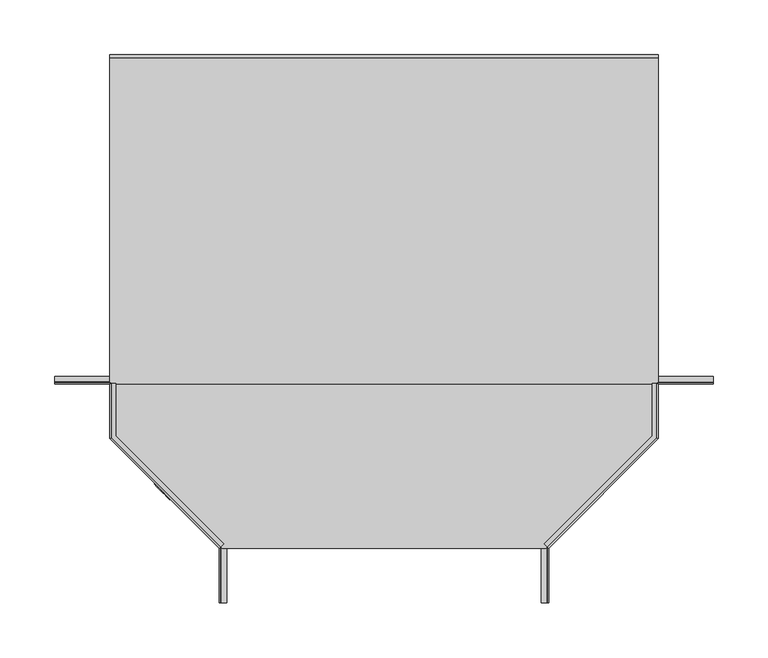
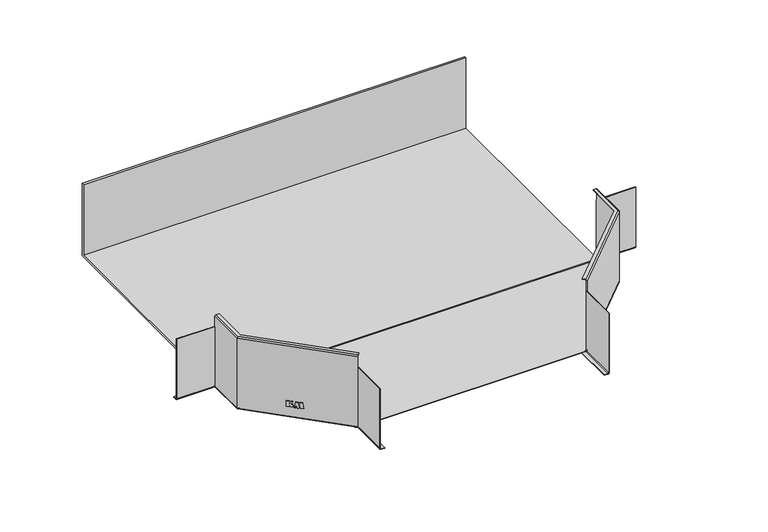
"""IFC4 building model written with IfcOpenShell, lengths in millimetres: cable carrier fitting geometry, КМ Профиль Т-образный ответвитель : Т-образный ответвитель TU."""

from ifc_helpers import new_model, si_unit, frame, origin, place, context, project, spatial, polyline, circle_curve, ellipse_curve, outline, extrude, source, transform, mapped, element, save
from ifc_brep_helpers import plane_surface, cylinder_surface, revolved_surface, advanced_brep


def cable_carrier_fitting_0a35e445(model_context):
    return source(origin(), model_context, "Body", "SolidModel", [
        extrude(outline(polyline([(-7.7728441, 0.0), (-0.0215801, 0.0), (-0.0215801, -3.5758269), (-3.1869209, -3.5758269), (-0.0215801, -5.2800314), (-0.0215801, -9.1784428), (-3.5649671, -7.3111337), (-4.2503392, -5.0693826), (-7.7728441, -7.5358671), (-7.7728441, -5.4099024), (-4.1944921, -3.5072589), (-7.7728441, -3.5072589), (-7.7728441, 0.0)])), frame((-209.5985588, -241.5328121, -34.7590011), z_axis=(0.707106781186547, 0.707106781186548, 0.0), x_axis=(0.0, 0.0, -1.0)), (0.0, 0.0, 1.0), 0.8),
        extrude(outline(polyline([(-0.0215801, -11.2426021), (-4.6893876, -11.6262769), (-0.015533, -13.0342957), (-0.015533, -14.5088063), (-4.7048092, -15.9888749), (-0.0160096, -16.4663676), (-0.0160096, -20.3688082), (-7.7966329, -19.1773107), (-7.7966329, -15.9833558), (-4.7199779, -14.9620484), (-7.7942442, -14.1955477), (-7.7942442, -11.1648192), (-0.0215801, -9.3445386), (-0.0215801, -11.2426021)])), frame((-209.5985588, -241.5328121, -34.7590011), z_axis=(0.707106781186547, 0.707106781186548, 0.0), x_axis=(0.0, 0.0, -1.0)), (0.0, 0.0, 1.0), 0.8),
        advanced_brep(
        [(300.0, -150.0, -48.2), (300.0, -148.2, -50.0), (300.0, -143.5, -50.0), (300.0, -143.5, -49.2), (300.0, -148.2, -49.2), (300.0, -149.2, -48.2), (300.0, -149.2, 34.0), (300.0, -150.0, 34.0), (248.2, -150.0, 49.2), (248.2, -199.2544156, 49.2), (148.7272078, -298.7272078, 49.2), (146.1109127, -296.1109127, 49.2), (244.5, -197.7218254, 49.2), (244.5, -150.0, 49.2), (244.5, -150.0, 50.0), (244.5, -197.7218254, 50.0), (146.1109127, -296.1109127, 50.0), (148.7272078, -298.7272078, 50.0), (248.2, -199.2544156, 50.0), (248.2, -150.0, 50.0), (250.0, -150.0, -48.2), (250.0, -150.0, 34.0), (248.2, -148.2, -50.0), (248.2, -199.2544156, -50.0), (148.2, -299.2544156, -50.0), (148.2, -350.0, -50.0), (143.5, -350.0, -50.0), (143.5, -297.3076118, -50.0), (243.5, -197.3076118, -50.0), (243.5, -143.5, -50.0), (243.5, -143.5, -49.2), (243.5, -197.3076118, -49.2), (143.5, -297.3076118, -49.2), (143.5, -350.0, -49.2), (148.2, -350.0, -49.2), (148.2, -299.2544156, -49.2), (248.2, -199.2544156, -49.2), (248.2, -148.2, -49.2), (249.2, -149.2, -48.2), (249.2, -149.2, 34.0), (249.2, -199.6686292, 48.2), (249.2, -150.0, 48.2), (250.0, -200.0, 48.2), (250.0, -150.0, 48.2), (250.0, -200.0, -48.2), (249.2, -199.6686292, -48.2), (249.2, -150.0, 34.0), (149.4343146, -299.4343146, 48.2), (150.0, -300.0, 48.2), (150.0, -300.0, 34.0), (150.0, -300.0, -48.2), (149.2, -299.6686292, -48.2), (149.2, -299.6686292, 34.0), (149.4343146, -299.4343146, 34.0), (150.0, -350.0, -48.2), (150.0, -350.0, 34.0), (149.2, -350.0, 34.0), (149.2, -350.0, -48.2)],
        [
            (0, 1, circle_curve(frame((300.0, -148.2, -48.2), z_axis=(1.0, 0.0, 0.0), x_axis=(0.0, -1.0, 0.0)), 1.8)),
            (1, 2),
            (2, 3),
            (3, 4),
            (4, 5, circle_curve(frame((300.0, -148.2, -48.2), z_axis=(-1.0, 0.0, 0.0), x_axis=(0.0, -1.0, 0.0)), 1.0)),
            (5, 6),
            (6, 7),
            (7, 0),
            (8, 9),
            (9, 10),
            (10, 11),
            (11, 12),
            (12, 13),
            (13, 8),
            (14, 15),
            (15, 16),
            (16, 17),
            (17, 18),
            (18, 19),
            (19, 14),
            (20, 0),
            (7, 21),
            (21, 20),
            (20, 22, ellipse_curve(frame((248.2, -148.2, -48.2), z_axis=(0.7071067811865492, 0.7071067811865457, 0.0), x_axis=(0.707106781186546, -0.7071067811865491, 0.0)), 2.5455844, 1.8)),
            (22, 1),
            (22, 23),
            (23, 24),
            (24, 25),
            (25, 26),
            (26, 27),
            (27, 28),
            (28, 29),
            (29, 2),
            (29, 30),
            (30, 3),
            (30, 31),
            (31, 32),
            (32, 33),
            (33, 34),
            (34, 35),
            (35, 36),
            (36, 37),
            (37, 4),
            (37, 38, ellipse_curve(frame((248.2, -148.2, -48.2), z_axis=(-0.7071067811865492, -0.7071067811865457, 0.0), x_axis=(-0.707106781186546, 0.7071067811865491, 0.0)), 1.4142136, 1.0)),
            (38, 5),
            (38, 39),
            (39, 6),
            (40, 9, ellipse_curve(frame((248.2, -199.2544156, 48.2), z_axis=(-0.38268343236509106, -0.9238795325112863, 0.0), x_axis=(0.9238795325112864, -0.3826834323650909, 0.0)), 1.0823922, 1.0)),
            (8, 41, circle_curve(frame((248.2, -150.0, 48.2), z_axis=(0.0, 1.0, 0.0), x_axis=(1.0, 0.0, 0.0)), 1.0)),
            (41, 40),
            (12, 15),
            (14, 13),
            (18, 42, ellipse_curve(frame((248.2, -199.2544156, 48.2), z_axis=(0.38268343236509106, 0.9238795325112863, 0.0), x_axis=(-0.9238795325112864, 0.3826834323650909, 0.0)), 1.948306, 1.8)),
            (42, 43),
            (43, 19, circle_curve(frame((248.2, -150.0, 48.2), z_axis=(0.0, -1.0, 0.0), x_axis=(1.0, 0.0, 0.0)), 1.8)),
            (42, 44),
            (44, 20),
            (21, 43),
            (44, 23, ellipse_curve(frame((248.2, -199.2544156, -48.2), z_axis=(0.38268343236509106, 0.9238795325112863, 0.0), x_axis=(-0.9238795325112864, 0.3826834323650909, 0.0)), 1.948306, 1.8)),
            (28, 31),
            (36, 45, ellipse_curve(frame((248.2, -199.2544156, -48.2), z_axis=(-0.38268343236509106, -0.9238795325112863, 0.0), x_axis=(0.9238795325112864, -0.3826834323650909, 0.0)), 1.0823922, 1.0)),
            (45, 38),
            (45, 40),
            (41, 46),
            (46, 39),
            (40, 47),
            (47, 10, circle_curve(frame((148.7272078, -298.7272078, 48.2), z_axis=(-0.7071067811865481, -0.7071067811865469, 0.0), x_axis=(0.7071067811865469, -0.7071067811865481, 0.0)), 1.0)),
            (11, 16),
            (17, 48, circle_curve(frame((148.7272078, -298.7272078, 48.2), z_axis=(0.7071067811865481, 0.7071067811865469, 0.0), x_axis=(0.7071067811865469, -0.7071067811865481, 0.0)), 1.8)),
            (48, 42),
            (48, 49),
            (49, 50),
            (50, 44),
            (50, 24, ellipse_curve(frame((148.2, -299.2544156, -48.2), z_axis=(0.382683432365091, 0.9238795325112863, 0.0), x_axis=(0.9238795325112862, -0.3826834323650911, 0.0)), 1.948306, 1.8)),
            (27, 32),
            (35, 51, ellipse_curve(frame((148.2, -299.2544156, -48.2), z_axis=(-0.382683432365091, -0.9238795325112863, 0.0), x_axis=(-0.9238795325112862, 0.3826834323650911, 0.0)), 1.0823922, 1.0)),
            (51, 45),
            (51, 52),
            (52, 53),
            (53, 47),
            (25, 54, circle_curve(frame((148.2, -350.0, -48.2), z_axis=(0.0, -1.0, 0.0), x_axis=(1.0, 0.0, 0.0)), 1.8)),
            (54, 55),
            (55, 56),
            (56, 57),
            (57, 34, circle_curve(frame((148.2, -350.0, -48.2), z_axis=(0.0, 1.0, 0.0), x_axis=(1.0, 0.0, 0.0)), 1.0)),
            (33, 26),
            (54, 50),
            (49, 55),
            (57, 51),
            (56, 52),
            (49, 53),
            (46, 21),
        ],
        [
            plane_surface(frame((300.0, -150.0, 0.0), z_axis=(1.0, 0.0, 0.0), x_axis=(0.0, 0.0, 1.0))),
            plane_surface(frame((300.0, -148.2, 49.2), z_axis=(0.0, 0.0, -1.0), x_axis=(-1.0, 0.0, 0.0))),
            plane_surface(frame((300.0, -144.5, 50.0), z_axis=(0.0, 0.0, 1.0), x_axis=(-1.0, 0.0, 0.0))),
            plane_surface(frame((300.0, -150.0, 48.2), z_axis=(0.0, -1.0, 0.0), x_axis=(-1.0, 0.0, 0.0))),
            cylinder_surface(frame((300.0, -148.2, -48.2), z_axis=(1.0, 0.0, 0.0), x_axis=(0.0, -1.0, 0.0)), 1.8),
            plane_surface(frame((300.0, -148.2, -50.0), z_axis=(0.0, 0.0, -1.0), x_axis=(-1.0, 0.0, 0.0))),
            plane_surface(frame((300.0, -143.5, -50.0), z_axis=(0.0, 1.0, 0.0), x_axis=(-1.0, 0.0, 0.0))),
            plane_surface(frame((300.0, -143.5, -49.2), z_axis=(0.0, 0.0, 1.0), x_axis=(-1.0, 0.0, 0.0))),
            revolved_surface(polyline([(247.19999997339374, -149.2, -48.2), (300.0, -149.2, -48.2)]), (300.0, -148.2, -48.2), (-1.0, 0.0, 0.0)),
            plane_surface(frame((300.0, -149.2, -48.2), z_axis=(0.0, 1.0, 0.0), x_axis=(-1.0, 0.0, 0.0))),
            revolved_surface(polyline([(249.2, -199.6686292, 48.2), (249.2, -150.0, 48.2)]), (248.2, -150.0, 48.2), (0.0, -1.0, 0.0)),
            plane_surface(frame((244.5, -144.5, 49.2), z_axis=(-1.0, 0.0, 0.0), x_axis=(0.0, -1.0, 0.0))),
            cylinder_surface(frame((248.2, -150.0, 48.2), z_axis=(0.0, 1.0, 0.0), x_axis=(1.0, 0.0, 0.0)), 1.8),
            plane_surface(frame((250.0, -150.0, 48.2), z_axis=(1.0, 0.0, 0.0), x_axis=(0.0, -1.0, 0.0))),
            cylinder_surface(frame((248.2, -150.0, -48.2), z_axis=(0.0, 1.0, 0.0), x_axis=(1.0, 0.0, 0.0)), 1.8),
            plane_surface(frame((243.5, -143.5, -50.0), z_axis=(-1.0, 0.0, 0.0), x_axis=(0.0, -1.0, 0.0))),
            revolved_surface(polyline([(249.2, -199.6686292, -48.2), (249.2, -147.19999997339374, -48.2)]), (248.2, -150.0, -48.2), (0.0, -1.0, 0.0)),
            plane_surface(frame((249.2, -149.2, -48.2), z_axis=(-1.0, 0.0, 0.0), x_axis=(0.0, -1.0, 0.0))),
            revolved_surface(polyline([(149.43431458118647, -299.43431458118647, 48.2), (249.1999999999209, -199.66862916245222, 48.2)]), (248.7272078, -198.7272078, 48.2), (-0.7071067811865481, -0.7071067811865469, 0.0)),
            plane_surface(frame((244.5, -197.7218254, 49.2), z_axis=(-0.707106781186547, 0.707106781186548, 0.0), x_axis=(-0.707106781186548, -0.707106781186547, 0.0))),
            cylinder_surface(frame((248.7272078, -198.7272078, 48.2), z_axis=(0.7071067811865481, 0.7071067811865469, 0.0), x_axis=(0.7071067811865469, -0.7071067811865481, 0.0)), 1.8),
            plane_surface(frame((250.0, -200.0, 48.2), z_axis=(0.707106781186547, -0.707106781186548, 0.0), x_axis=(-0.707106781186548, -0.707106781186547, 0.0))),
            cylinder_surface(frame((248.7272078, -198.7272078, -48.2), z_axis=(0.7071067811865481, 0.7071067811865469, 0.0), x_axis=(0.7071067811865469, -0.7071067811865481, 0.0)), 1.8),
            plane_surface(frame((243.5, -197.3076118, -50.0), z_axis=(-0.7071067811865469, 0.7071067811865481, 0.0), x_axis=(-0.7071067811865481, -0.7071067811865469, 0.0))),
            revolved_surface(polyline([(148.6142135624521, -300.25441559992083, -48.2), (249.1999999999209, -199.66862916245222, -48.2)]), (248.7272078, -198.7272078, -48.2), (-0.7071067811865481, -0.7071067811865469, 0.0)),
            plane_surface(frame((249.2, -199.6686292, -48.2), z_axis=(-0.707106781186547, 0.707106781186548, 0.0), x_axis=(-0.707106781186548, -0.707106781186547, 0.0))),
            plane_surface(frame((150.0, -350.0, 0.0), z_axis=(0.0, -1.0, 0.0), x_axis=(0.0, 0.0, 1.0))),
            plane_surface(frame((150.0, -300.0, 48.2), z_axis=(1.0, 0.0, 0.0), x_axis=(0.0, -1.0, 0.0))),
            cylinder_surface(frame((148.2, -300.0, -48.2), z_axis=(0.0, 1.0, 0.0), x_axis=(1.0, 0.0, 0.0)), 1.8),
            plane_surface(frame((143.5, -297.3076118, -50.0), z_axis=(-1.0, 0.0, 0.0), x_axis=(0.0, -1.0, 0.0))),
            revolved_surface(polyline([(149.2, -350.0, -48.2), (149.2, -298.84020203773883, -48.2)]), (148.2, -300.0, -48.2), (0.0, -1.0, 0.0)),
            plane_surface(frame((149.2, -299.6686292, -48.2), z_axis=(-1.0, 0.0, 0.0), x_axis=(0.0, -1.0, 0.0))),
            plane_surface(frame((-150.0, -294.8995647, 34.0), z_axis=(0.0, 0.0, 1.0), x_axis=(0.0, 1.0, 0.0))),
            plane_surface(frame((150.0, -300.0, 50.0), z_axis=(-0.7071067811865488, -0.7071067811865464, 0.0), x_axis=(0.0, 0.0, -1.0))),
            plane_surface(frame((243.5, -150.0, 50.0), z_axis=(0.0, 1.0, 0.0), x_axis=(0.0, 0.0, -1.0))),
        ],
        [
            (0, [[1, 2, 3, 4, 5, 6, 7, 8]]),
            (1, [[9, 10, 11, 12, 13, 14]]),
            (2, [[15, 16, 17, 18, 19, 20]]),
            (3, [[21, -8, 22, 23]]),
            (4, [[-1, -21, 24, 25]]),
            (5, [[-2, -25, 26, 27, 28, 29, 30, 31, 32, 33]]),
            (6, [[-3, -33, 34, 35]]),
            (7, [[-4, -35, 36, 37, 38, 39, 40, 41, 42, 43]]),
            (8, [[-5, -43, 44, 45]]),
            (9, [[-45, 46, 47, -6]]),
            (10, [[48, -9, 49, 50]]),
            (11, [[51, -15, 52, -13]]),
            (12, [[53, 54, 55, -19]]),
            (13, [[-54, 56, 57, -23, 58]]),
            (14, [[-24, -57, 59, -26]]),
            (15, [[-32, 60, -36, -34]]),
            (16, [[-42, 61, 62, -44]]),
            (17, [[-62, 63, -50, 64, 65, -46]]),
            (18, [[-48, 66, 67, -10]]),
            (19, [[-51, -12, 68, -16]]),
            (20, [[-53, -18, 69, 70]]),
            (21, [[-56, -70, 71, 72, 73]]),
            (22, [[-27, -59, -73, 74]]),
            (23, [[-31, 75, -37, -60]]),
            (24, [[-41, 76, 77, -61]]),
            (25, [[-63, -77, 78, 79, 80, -66]]),
            (26, [[-29, 81, 82, 83, 84, 85, -39, 86]]),
            (27, [[87, -72, 88, -82]]),
            (28, [[-28, -74, -87, -81]]),
            (29, [[-30, -86, -38, -75]]),
            (30, [[-40, -85, 89, -76]]),
            (31, [[-89, -84, 90, -78]]),
            (32, [[91, -79, -90, -83, -88]]),
            (32, [[92, -22, -7, -47, -65]]),
            (33, [[-91, -71, -69, -17, -68, -11, -67, -80]]),
            (34, [[-92, -64, -49, -14, -52, -20, -55, -58]]),
        ],
    ),
        advanced_brep(
        [(-300.0, -149.2, -48.2), (-300.0, -148.2, -49.2), (-300.0, -143.5, -49.2), (-300.0, -143.5, -50.0), (-300.0, -148.2, -50.0), (-300.0, -150.0, -48.2), (-300.0, -150.0, 34.0), (-300.0, -149.2, 34.0), (-249.2, -149.2, -48.2), (-249.2, -149.2, 34.0), (-248.2, -148.2, -49.2), (-248.2, -199.2544156, -49.2), (-148.2, -299.2544156, -49.2), (-148.2, -350.0, -49.2), (-143.5, -350.0, -49.2), (-143.5, -297.3076118, -49.2), (-243.5, -197.3076118, -49.2), (-243.5, -143.5, -49.2), (-243.5, -143.5, -50.0), (-243.5, -197.3076118, -50.0), (-143.5, -297.3076118, -50.0), (-143.5, -350.0, -50.0), (-148.2, -350.0, -50.0), (-148.2, -299.2544156, -50.0), (-248.2, -199.2544156, -50.0), (-248.2, -148.2, -50.0), (-250.0, -150.0, -48.2), (-250.0, -150.0, 34.0), (-248.2, -150.0, 50.0), (-248.2, -199.2544156, 50.0), (-148.7272078, -298.7272078, 50.0), (-146.1109127, -296.1109127, 50.0), (-244.5, -197.7218254, 50.0), (-244.5, -150.0, 50.0), (-244.5, -150.0, 49.2), (-244.5, -197.7218254, 49.2), (-146.1109127, -296.1109127, 49.2), (-148.7272078, -298.7272078, 49.2), (-248.2, -199.2544156, 49.2), (-248.2, -150.0, 49.2), (-249.2, -199.6686292, 48.2), (-249.2, -199.6686292, -48.2), (-249.2, -150.0, 34.0), (-249.2, -150.0, 48.2), (-250.0, -200.0, -48.2), (-250.0, -200.0, 48.2), (-250.0, -150.0, 48.2), (-149.4343146, -299.4343146, 48.2), (-149.4343146, -299.4343146, 34.0), (-149.2, -299.6686292, 34.0), (-149.2, -299.6686292, -48.2), (-150.0, -300.0, -48.2), (-150.0, -300.0, 34.0), (-150.0, -300.0, 48.2), (-149.2, -350.0, -48.2), (-149.2, -350.0, 34.0), (-150.0, -350.0, 34.0), (-150.0, -350.0, -48.2)],
        [
            (0, 1, circle_curve(frame((-300.0, -148.2, -48.2), z_axis=(1.0, 0.0, 0.0), x_axis=(0.0, 1.0, 0.0)), 1.0)),
            (1, 2),
            (2, 3),
            (3, 4),
            (4, 5, circle_curve(frame((-300.0, -148.2, -48.2), z_axis=(-1.0, 0.0, 0.0), x_axis=(0.0, 1.0, 0.0)), 1.8)),
            (5, 6),
            (6, 7),
            (7, 0),
            (8, 0),
            (7, 9),
            (9, 8),
            (8, 10, ellipse_curve(frame((-248.2, -148.2, -48.2), z_axis=(0.7071067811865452, -0.7071067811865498, 0.0), x_axis=(0.7071067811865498, 0.7071067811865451, 0.0)), 1.4142136, 1.0)),
            (10, 1),
            (10, 11),
            (11, 12),
            (12, 13),
            (13, 14),
            (14, 15),
            (15, 16),
            (16, 17),
            (17, 2),
            (17, 18),
            (18, 3),
            (18, 19),
            (19, 20),
            (20, 21),
            (21, 22),
            (22, 23),
            (23, 24),
            (24, 25),
            (25, 4),
            (25, 26, ellipse_curve(frame((-248.2, -148.2, -48.2), z_axis=(-0.7071067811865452, 0.7071067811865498, 0.0), x_axis=(-0.7071067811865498, -0.7071067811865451, 0.0)), 2.5455844, 1.8)),
            (26, 5),
            (26, 27),
            (27, 6),
            (28, 29),
            (29, 30),
            (30, 31),
            (31, 32),
            (32, 33),
            (33, 28),
            (34, 35),
            (35, 36),
            (36, 37),
            (37, 38),
            (38, 39),
            (39, 34),
            (40, 41),
            (41, 8),
            (9, 42),
            (42, 43),
            (43, 40),
            (41, 11, ellipse_curve(frame((-248.2, -199.2544156, -48.2), z_axis=(0.38268343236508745, -0.9238795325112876, 0.0), x_axis=(-0.9238795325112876, -0.38268343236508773, 0.0)), 1.0823922, 1.0)),
            (16, 19),
            (24, 44, ellipse_curve(frame((-248.2, -199.2544156, -48.2), z_axis=(-0.38268343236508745, 0.9238795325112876, 0.0), x_axis=(0.9238795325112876, 0.38268343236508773, 0.0)), 1.948306, 1.8)),
            (44, 26),
            (44, 45),
            (45, 46),
            (46, 27),
            (45, 29, ellipse_curve(frame((-248.2, -199.2544156, 48.2), z_axis=(-0.38268343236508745, 0.9238795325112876, 0.0), x_axis=(0.9238795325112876, 0.38268343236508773, 0.0)), 1.948306, 1.8)),
            (28, 46, circle_curve(frame((-248.2, -150.0, 48.2), z_axis=(0.0, -1.0, 0.0), x_axis=(1.0, 0.0, 0.0)), 1.8)),
            (32, 35),
            (34, 33),
            (38, 40, ellipse_curve(frame((-248.2, -199.2544156, 48.2), z_axis=(0.38268343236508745, -0.9238795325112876, 0.0), x_axis=(-0.9238795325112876, -0.38268343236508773, 0.0)), 1.0823922, 1.0)),
            (43, 39, circle_curve(frame((-248.2, -150.0, 48.2), z_axis=(0.0, 1.0, 0.0), x_axis=(1.0, 0.0, 0.0)), 1.0)),
            (40, 47),
            (47, 48),
            (48, 49),
            (49, 50),
            (50, 41),
            (50, 12, ellipse_curve(frame((-148.2, -299.2544156, -48.2), z_axis=(0.38268343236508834, -0.9238795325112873, 0.0), x_axis=(0.9238795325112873, 0.38268343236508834, 0.0)), 1.0823922, 1.0)),
            (15, 20),
            (23, 51, ellipse_curve(frame((-148.2, -299.2544156, -48.2), z_axis=(-0.38268343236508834, 0.9238795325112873, 0.0), x_axis=(-0.9238795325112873, -0.38268343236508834, 0.0)), 1.948306, 1.8)),
            (51, 44),
            (51, 52),
            (52, 53),
            (53, 45),
            (53, 30, circle_curve(frame((-148.7272078, -298.7272078, 48.2), z_axis=(-0.7071067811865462, 0.7071067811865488, 0.0), x_axis=(0.7071067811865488, 0.7071067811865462, 0.0)), 1.8)),
            (31, 36),
            (37, 47, circle_curve(frame((-148.7272078, -298.7272078, 48.2), z_axis=(0.7071067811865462, -0.7071067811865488, 0.0), x_axis=(0.7071067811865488, 0.7071067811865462, 0.0)), 1.0)),
            (13, 54, circle_curve(frame((-148.2, -350.0, -48.2), z_axis=(0.0, 1.0, 0.0), x_axis=(1.0, 0.0, 0.0)), 1.0)),
            (54, 55),
            (55, 56),
            (56, 57),
            (57, 22, circle_curve(frame((-148.2, -350.0, -48.2), z_axis=(0.0, -1.0, 0.0), x_axis=(1.0, 0.0, 0.0)), 1.8)),
            (21, 14),
            (54, 50),
            (49, 55),
            (57, 51),
            (56, 52),
            (48, 52),
            (27, 42),
        ],
        [
            plane_surface(frame((-300.0, -150.0, 0.0), z_axis=(-1.0, 0.0, 0.0), x_axis=(0.0, 0.0, 1.0))),
            plane_surface(frame((-300.0, -149.2, 48.2), z_axis=(0.0, 1.0, 0.0), x_axis=(1.0, 0.0, 0.0))),
            revolved_surface(polyline([(-247.19999997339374, -147.2, -48.2), (-300.0, -147.2, -48.2)]), (-300.0, -148.2, -48.2), (1.0, 0.0, 0.0)),
            plane_surface(frame((-300.0, -148.2, -49.2), z_axis=(0.0, 0.0, 1.0), x_axis=(1.0, 0.0, 0.0))),
            plane_surface(frame((-300.0, -143.5, -49.2), z_axis=(0.0, 1.0, 0.0), x_axis=(1.0, 0.0, 0.0))),
            plane_surface(frame((-300.0, -143.5, -50.0), z_axis=(0.0, 0.0, -1.0), x_axis=(1.0, 0.0, 0.0))),
            cylinder_surface(frame((-300.0, -148.2, -48.2), z_axis=(-1.0, 0.0, 0.0), x_axis=(0.0, 1.0, 0.0)), 1.8),
            plane_surface(frame((-300.0, -150.0, -48.2), z_axis=(0.0, -1.0, 0.0), x_axis=(1.0, 0.0, 0.0))),
            plane_surface(frame((-300.0, -148.2, 50.0), z_axis=(0.0, 0.0, 1.0), x_axis=(1.0, 0.0, 0.0))),
            plane_surface(frame((-300.0, -144.5, 49.2), z_axis=(0.0, 0.0, -1.0), x_axis=(1.0, 0.0, 0.0))),
            plane_surface(frame((-249.2, -149.2, 48.2), z_axis=(1.0, 0.0, 0.0), x_axis=(0.0, -1.0, 0.0))),
            revolved_surface(polyline([(-247.2, -199.6686292, -48.2), (-247.2, -147.19999997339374, -48.2)]), (-248.2, -150.0, -48.2), (0.0, -1.0, 0.0)),
            plane_surface(frame((-243.5, -143.5, -49.2), z_axis=(1.0, 0.0, 0.0), x_axis=(0.0, -1.0, 0.0))),
            cylinder_surface(frame((-248.2, -150.0, -48.2), z_axis=(0.0, 1.0, 0.0), x_axis=(1.0, 0.0, 0.0)), 1.8),
            plane_surface(frame((-250.0, -150.0, -48.2), z_axis=(-1.0, 0.0, 0.0), x_axis=(0.0, -1.0, 0.0))),
            cylinder_surface(frame((-248.2, -150.0, 48.2), z_axis=(0.0, 1.0, 0.0), x_axis=(1.0, 0.0, 0.0)), 1.8),
            plane_surface(frame((-244.5, -144.5, 50.0), z_axis=(1.0, 0.0, 0.0), x_axis=(0.0, -1.0, 0.0))),
            revolved_surface(polyline([(-247.2, -199.6686292, 48.2), (-247.2, -150.0, 48.2)]), (-248.2, -150.0, 48.2), (0.0, -1.0, 0.0)),
            plane_surface(frame((-249.2, -199.6686292, 48.2), z_axis=(0.707106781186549, 0.7071067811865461, 0.0), x_axis=(0.7071067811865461, -0.707106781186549, 0.0))),
            revolved_surface(polyline([(-147.20000000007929, -298.840202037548, -48.2), (-247.78578643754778, -198.2544156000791, -48.2)]), (-248.7272078, -198.7272078, -48.2), (0.7071067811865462, -0.7071067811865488, 0.0)),
            plane_surface(frame((-243.5, -197.3076118, -49.2), z_axis=(0.707106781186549, 0.707106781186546, 0.0), x_axis=(0.707106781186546, -0.707106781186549, 0.0))),
            cylinder_surface(frame((-248.7272078, -198.7272078, -48.2), z_axis=(-0.7071067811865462, 0.7071067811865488, 0.0), x_axis=(0.7071067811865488, 0.7071067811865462, 0.0)), 1.8),
            plane_surface(frame((-250.0, -200.0, -48.2), z_axis=(-0.707106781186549, -0.7071067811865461, 0.0), x_axis=(0.7071067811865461, -0.707106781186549, 0.0))),
            cylinder_surface(frame((-248.7272078, -198.7272078, 48.2), z_axis=(-0.7071067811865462, 0.7071067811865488, 0.0), x_axis=(0.7071067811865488, 0.7071067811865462, 0.0)), 1.8),
            plane_surface(frame((-244.5, -197.7218254, 50.0), z_axis=(0.707106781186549, 0.707106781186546, 0.0), x_axis=(0.707106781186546, -0.707106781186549, 0.0))),
            revolved_surface(polyline([(-148.02010101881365, -298.02010101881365, 48.2), (-247.78578643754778, -198.2544156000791, 48.2)]), (-248.7272078, -198.7272078, 48.2), (0.7071067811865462, -0.7071067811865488, 0.0)),
            plane_surface(frame((-150.0, -350.0, 0.0), z_axis=(0.0, -1.0, 0.0), x_axis=(0.0, 0.0, 1.0))),
            plane_surface(frame((-149.2, -299.6686292, 48.2), z_axis=(1.0, 0.0, 0.0), x_axis=(0.0, -1.0, 0.0))),
            revolved_surface(polyline([(-147.2, -350.0, -48.2), (-147.2, -298.84020203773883, -48.2)]), (-148.2, -300.0, -48.2), (0.0, -1.0, 0.0)),
            plane_surface(frame((-143.5, -297.3076118, -49.2), z_axis=(1.0, 0.0, 0.0), x_axis=(0.0, -1.0, 0.0))),
            cylinder_surface(frame((-148.2, -300.0, -48.2), z_axis=(0.0, 1.0, 0.0), x_axis=(1.0, 0.0, 0.0)), 1.8),
            plane_surface(frame((-150.0, -300.0, -48.2), z_axis=(-1.0, 0.0, 0.0), x_axis=(0.0, -1.0, 0.0))),
            plane_surface(frame((-150.0, -294.8995647, 34.0), z_axis=(0.0, 0.0, 1.0), x_axis=(0.0, 1.0, 0.0))),
            plane_surface(frame((-140.0, -290.0, 50.0), z_axis=(0.7071067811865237, -0.7071067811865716, 0.0), x_axis=(0.0, 0.0, -1.0))),
            plane_surface(frame((-300.0, -150.0, 50.0), z_axis=(0.0, 1.0, 0.0), x_axis=(0.0, 0.0, -1.0))),
        ],
        [
            (0, [[1, 2, 3, 4, 5, 6, 7, 8]]),
            (1, [[9, -8, 10, 11]]),
            (2, [[-1, -9, 12, 13]]),
            (3, [[-2, -13, 14, 15, 16, 17, 18, 19, 20, 21]]),
            (4, [[-3, -21, 22, 23]]),
            (5, [[-4, -23, 24, 25, 26, 27, 28, 29, 30, 31]]),
            (6, [[-5, -31, 32, 33]]),
            (7, [[-33, 34, 35, -6]]),
            (8, [[36, 37, 38, 39, 40, 41]]),
            (9, [[42, 43, 44, 45, 46, 47]]),
            (10, [[48, 49, -11, 50, 51, 52]]),
            (11, [[-12, -49, 53, -14]]),
            (12, [[-20, 54, -24, -22]]),
            (13, [[-30, 55, 56, -32]]),
            (14, [[-56, 57, 58, 59, -34]]),
            (15, [[-58, 60, -36, 61]]),
            (16, [[62, -42, 63, -40]]),
            (17, [[64, -52, 65, -46]]),
            (18, [[-48, 66, 67, 68, 69, 70]]),
            (19, [[-15, -53, -70, 71]]),
            (20, [[-19, 72, -25, -54]]),
            (21, [[-29, 73, 74, -55]]),
            (22, [[-57, -74, 75, 76, 77]]),
            (23, [[-60, -77, 78, -37]]),
            (24, [[-62, -39, 79, -43]]),
            (25, [[-64, -45, 80, -66]]),
            (26, [[-17, 81, 82, 83, 84, 85, -27, 86]]),
            (27, [[87, -69, 88, -82]]),
            (28, [[-16, -71, -87, -81]]),
            (29, [[-18, -86, -26, -72]]),
            (30, [[-28, -85, 89, -73]]),
            (31, [[-89, -84, 90, -75]]),
            (32, [[91, -90, -83, -88, -68]]),
            (32, [[92, -50, -10, -7, -35]]),
            (33, [[-91, -67, -80, -44, -79, -38, -78, -76]]),
            (34, [[-92, -59, -61, -41, -63, -47, -65, -51]]),
        ],
    ),
        extrude(outline(polyline([(150.0, 50.0), (150.0, -50.0), (-150.0, -50.0), (-150.0, -47.5), (147.5, -47.5), (147.5, 50.0), (150.0, 50.0)])), frame((-250.0, 0.0, 0.0), z_axis=(1.0, 0.0, 0.0), x_axis=(0.0, 1.0, 0.0)), (0.0, 0.0, 1.0), 500.0),
        extrude(outline(polyline([(-247.4, -200.0), (-247.4, -150.0), (247.4, -150.0), (247.4, -200.0), (147.4, -300.0), (-147.4, -300.0), (-247.4, -200.0)])), frame((0.0, 0.0, -49.2), z_axis=(0.0, 0.0, 1.0), x_axis=(1.0, 0.0, 0.0)), (0.0, 0.0, 1.0), 0.8),
    ])


if __name__ == "__main__":
    model = new_model("IFC4")
    model_context = context("Model", 3, world=origin())
    ifc_project = project(units=[si_unit("LENGTHUNIT", "METRE", prefix="MILLI")], contexts=[model_context])
    site = spatial("IfcSite", under=ifc_project)
    building = spatial("IfcBuilding", under=site)
    placement = place(None, origin())
    cable_carrier_fitting_shape = cable_carrier_fitting_0a35e445(model_context)
    element("IfcCableCarrierFitting", 1, ObjectType="КМ Профиль Т-образный ответвитель : Т-образный ответвитель TU", at=placement, inside=building, context=model_context, shape_type="MappedRepresentation", body=[
        mapped(cable_carrier_fitting_shape, transform((0.0, 0.0, 0.0), x_axis=(1.0, 0.0, 0.0), y_axis=(0.0, 1.0, 0.0), z_axis=(0.0, 0.0, 1.0))),
    ])
    save(model, "model.ifc")
